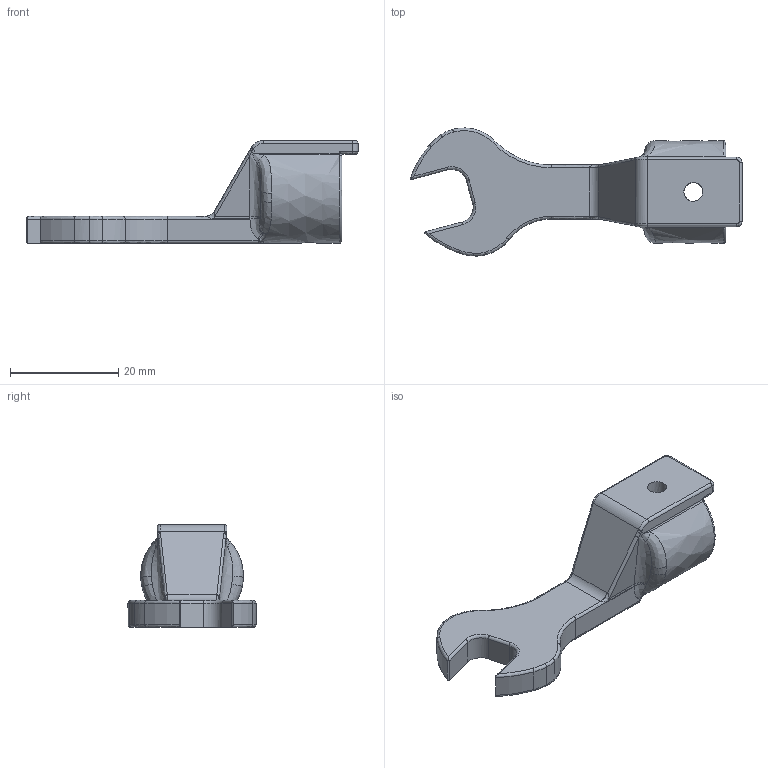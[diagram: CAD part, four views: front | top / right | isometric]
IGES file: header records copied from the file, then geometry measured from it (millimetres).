
Global section: file name: SH12DX10; native system: Autodesk Inventor 2016; preprocessor: unknown; author: Q532; date: 20151029.190449; units: millimetre
Bounding box: 61.44 x 23.7 x 19 mm (x, y, z)
Volume: 6063.7 mm3; surface area: 3756.8 mm2
Topology: 1 solids, 1 shells, 146 faces, 360 edges, 210 vertices
Faces by surface type: bspline 146
